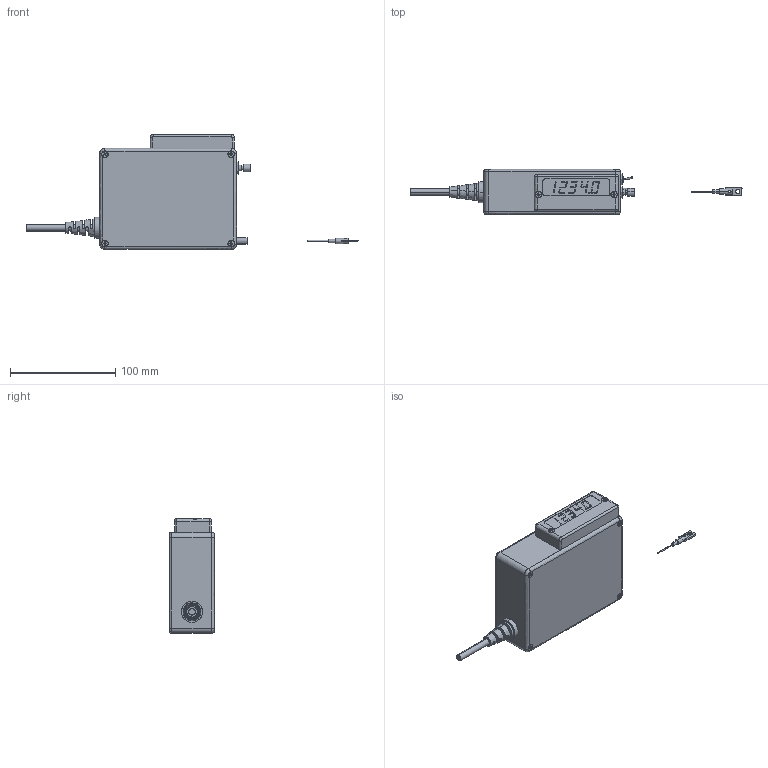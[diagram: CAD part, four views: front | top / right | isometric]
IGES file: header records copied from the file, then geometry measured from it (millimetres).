
Start section: SolidWorks IGES file using analytic representation for surfaces
Bounding box: 315.41 x 43 x 109 mm (x, y, z)
Surface area: 78293.2 mm2 (no closed solid volume)
Topology: 0 solids, 0 shells, 674 faces, 8513 edges, 8512 vertices
Faces by surface type: bspline 431, revolution 243
